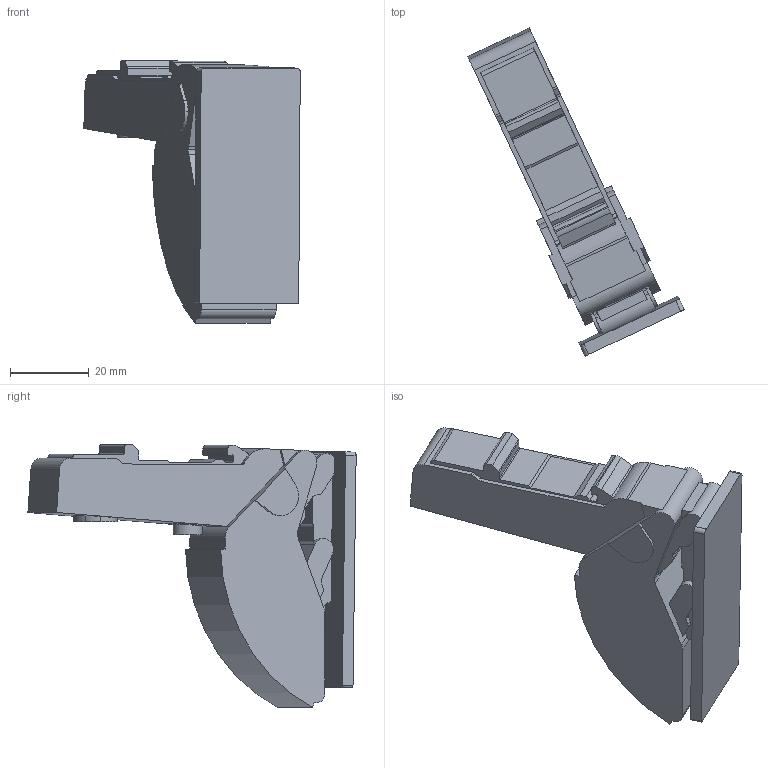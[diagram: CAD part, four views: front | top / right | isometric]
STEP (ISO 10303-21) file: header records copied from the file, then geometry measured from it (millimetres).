
FILE_DESCRIPTION (( 'STEP AP203' ), '1' );
FILE_NAME ('C80A689F﹛close.STEP', '2020-02-12T01:18:50', ( 'Windows 蚚誧' ), ( '' ), 'SwSTEP 2.0', 'SolidWorks 2012', '' );
FILE_SCHEMA (( 'CONFIG_CONTROL_DESIGN' ));
Length unit declared in the file: millimetre
Products named in the file (1): C80A689F﹛close
Bounding box: 54.99 x 83.4 x 66.78 mm (x, y, z)
Surface area: 13870.5 mm2 (no closed solid volume)
Topology: 0 solids, 2 shells, 178 faces, 522 edges, 348 vertices
Faces by surface type: plane 100, cylinder 74, bspline 4
Entity records: 6517 total; most frequent: CARTESIAN_POINT 1634, ORIENTED_EDGE 1040, DIRECTION 994, EDGE_CURVE 522, LINE 350, VECTOR 350, VERTEX_POINT 348, AXIS2_PLACEMENT_3D 322
